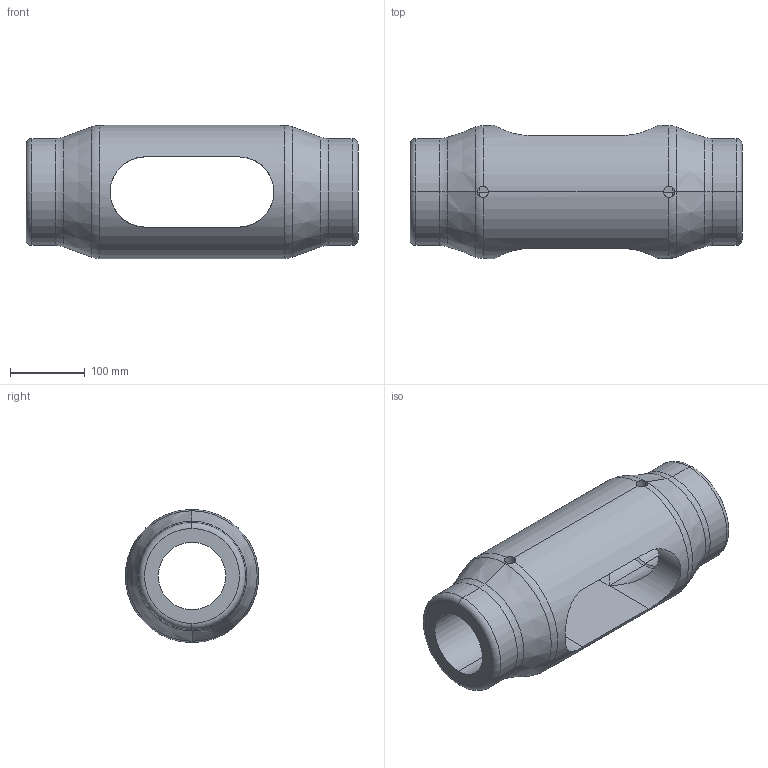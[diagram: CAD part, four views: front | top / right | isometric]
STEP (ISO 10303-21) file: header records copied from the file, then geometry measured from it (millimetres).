
FILE_DESCRIPTION (( 'STEP AP203' ), '1' );
FILE_NAME ('Kreuzmuffe M90.STEP', '2018-03-14T05:23:51', ( 'install' ), ( 'Hewlett-Packard Company' ), 'SwSTEP 2.0', 'SolidWorks 2017', '' );
FILE_SCHEMA (( 'CONFIG_CONTROL_DESIGN' ));
Length unit declared in the file: millimetre
Products named in the file (1): Kreuzmuffe M90
Bounding box: 444 x 177.92 x 178 mm (x, y, z)
Volume: 5052534.2 mm3; surface area: 359786.3 mm2
Topology: 1 solids, 1 shells, 46 faces, 108 edges, 58 vertices
Faces by surface type: cylinder 22, torus 16, cone 4, plane 4
Entity records: 1961 total; most frequent: CARTESIAN_POINT 843, DIRECTION 228, ORIENTED_EDGE 216, EDGE_CURVE 108, AXIS2_PLACEMENT_3D 97, VERTEX_POINT 58, CIRCLE 50, EDGE_LOOP 50
